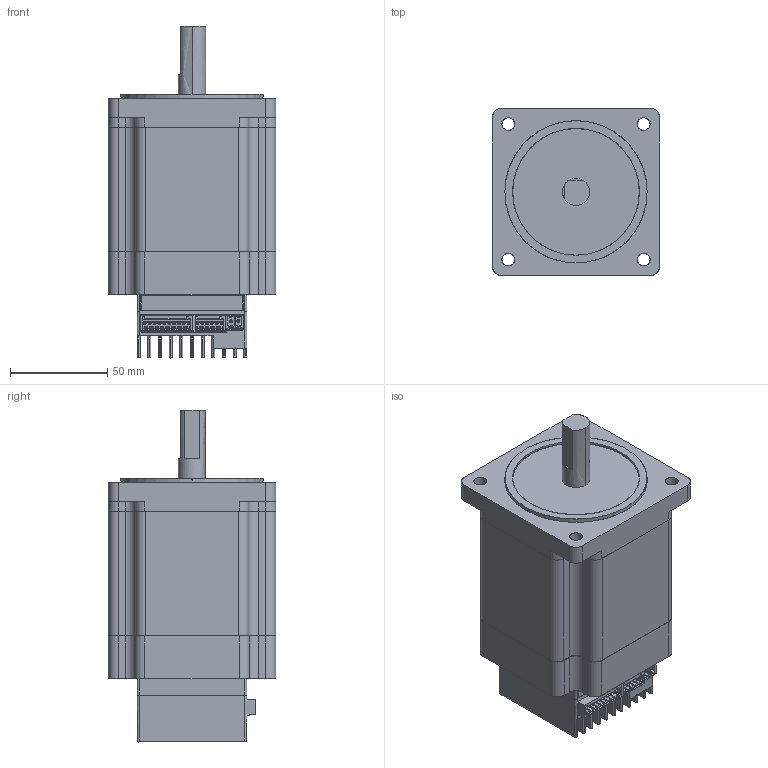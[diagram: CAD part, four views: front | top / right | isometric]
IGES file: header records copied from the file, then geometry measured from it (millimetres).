
Start section: SolidWorks IGES file using analytic representation for surfaces
Global section: file name: C:\Work\Sevotronix\NEMA 34 controller\CAD\Drawings and models for marketing\stepIM_IST-34M22CO10.IGS; native system: SolidWorks 2013; preprocessor: SolidWorks 2013; author: owner; date: 150511.010211; units: millimetre
Bounding box: 86 x 86 x 170.5 mm (x, y, z)
Surface area: 163140.4 mm2 (no closed solid volume)
Topology: 0 solids, 0 shells, 2156 faces, 21905 edges, 21893 vertices
Faces by surface type: bspline 1419, revolution 737
